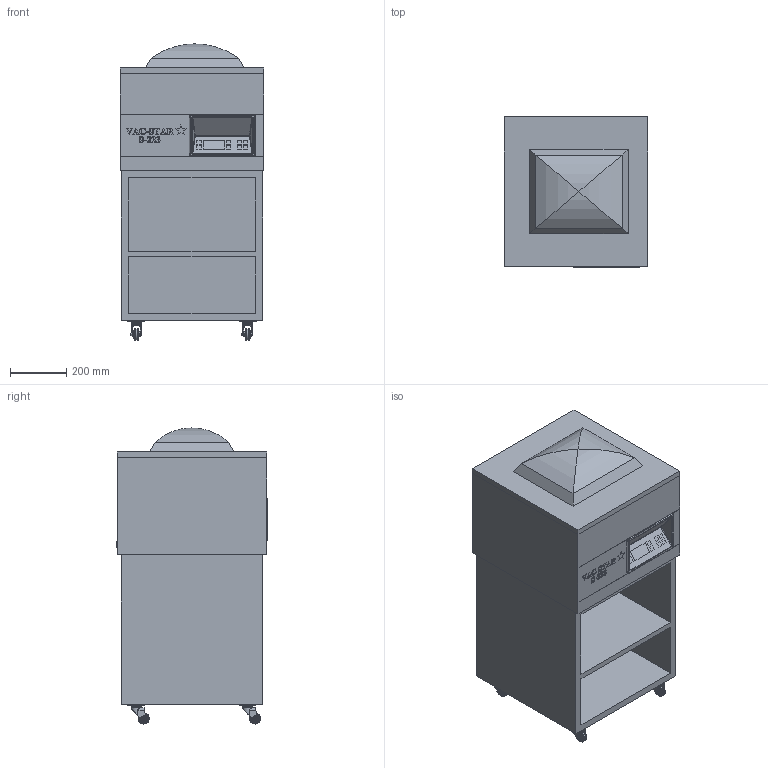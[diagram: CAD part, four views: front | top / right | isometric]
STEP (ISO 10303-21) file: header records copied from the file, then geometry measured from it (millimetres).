
FILE_DESCRIPTION(/* description */ ('Unknown'),/* implementation_level */ '2;1');
FILE_NAME(/* name */ 'C3D-S223-mit-Unterbau-M_AA',/* time_stamp */ '2021-10-22T10:24:34+02:00',/* author */ ('Unknown'),/* organization */ ('Unknown'),/* preprocessor_version */ 'ST-DEVELOPER v16.7',/* originating_system */ 'Solid Edge',/* authorisation */ 'Unknown');
FILE_SCHEMA (('AUTOMOTIVE_DESIGN {1 0 10303 214 3 1 1}'));
Length unit declared in the file: millimetre
Products named in the file (8): R-VAC-STAR-S223-m.U.; R-VAC-STAR-UnterbauM; 310X PT 50 EL; 310X PT 50 EL_body; 310X PT 50 EL_shaft; 50 EL-6-X; 310X PT 50 EL_plate; R-VAC-STAR-S223
Assembly tree (10 placements, depth 3):
  R-VAC-STAR-S223-m.U.
    R-VAC-STAR-UnterbauM
    310X PT 50 EL  x4
      310X PT 50 EL_body
      310X PT 50 EL_shaft
      50 EL-6-X
      310X PT 50 EL_plate
    R-VAC-STAR-S223
Bounding box: 510 x 534.51 x 1050 mm (x, y, z)
Volume: 112148195.7 mm3; surface area: 5072107.1 mm2
Topology: 19 solids, 19 shells, 1582 faces, 3840 edges, 2480 vertices
Faces by surface type: plane 913, cylinder 359, cone 128, torus 116, bspline 40, sphere 26
Full cylindrical faces by diameter (mm): 0.025 x4, 0.1 x4, 1.2 x4, 1.25 x4, 6 x20, 7 x8, 7.8 x8, 9 x8, 10.8 x8, 13 x4, 21 x8, 30 x4, 34.5 x8, 36 x12, 37.5 x8, 39.5 x8, 40 x12
Entity records: 23998 total; most frequent: CARTESIAN_POINT 7480, ORIENTED_EDGE 2880, DIRECTION 2680, EDGE_CURVE 1440, VERTEX_POINT 974, LINE 912, VECTOR 912, AXIS2_PLACEMENT_3D 884
